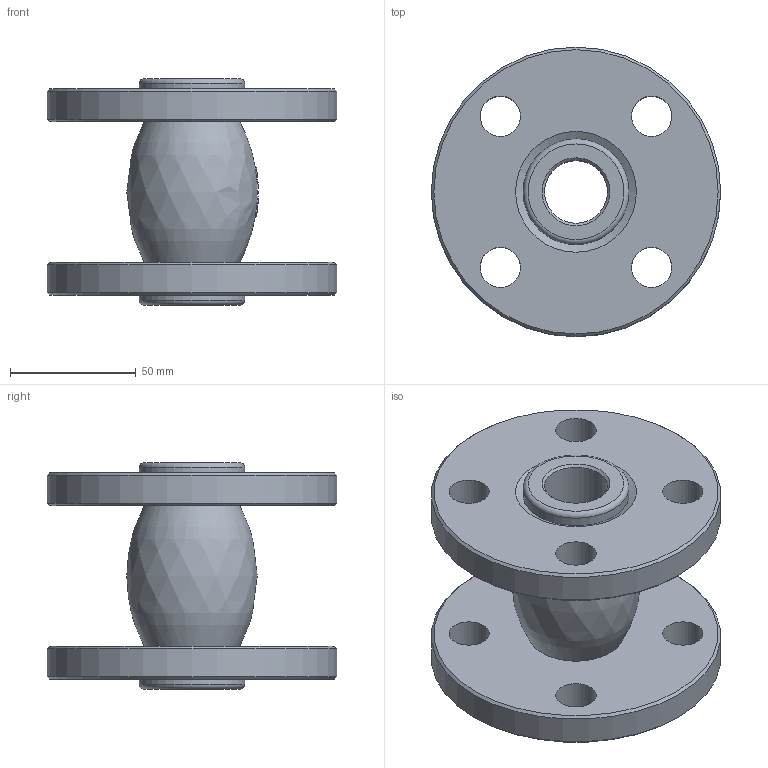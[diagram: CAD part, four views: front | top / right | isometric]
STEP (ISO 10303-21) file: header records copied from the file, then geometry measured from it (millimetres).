
FILE_DESCRIPTION(('STEP AP242'), '1');
FILE_NAME('CR-N34-F Êîìïåíñàòîð ðåçèíîâûé DN.ru Äó25 Ðó10-16', '2026-03-12T13:28:56', ('DN.RU'), (''), 'C3D Converter', 'C3D Toolkit', '');
FILE_SCHEMA(('AP242_MANAGED_MODEL_BASED_3D_ENGINEERING_MIM_LF { 1 0 10303 442 1 1 4 }'));
Length unit declared in the file: millimetre
Products named in the file (1): CR-N34-F
Bounding box: 115 x 115 x 90 mm (x, y, z)
Volume: 313556.3 mm3; surface area: 65981.9 mm2
Topology: 1 solids, 1 shells, 100 faces, 271 edges, 180 vertices
Faces by surface type: plane 43, bspline 35, cylinder 13, cone 7, torus 2
Full cylindrical faces by diameter (mm): 16 x8, 25 x1, 42 x2, 115 x2
Entity records: 8636 total; most frequent: CARTESIAN_POINT 5612, ORIENTED_EDGE 488, DIRECTION 276, EDGE_CURVE 244, VERTEX_POINT 180, EDGE_LOOP 152, B_SPLINE_CURVE_WITH_KNOTS 141, FACE_BOUND 120
